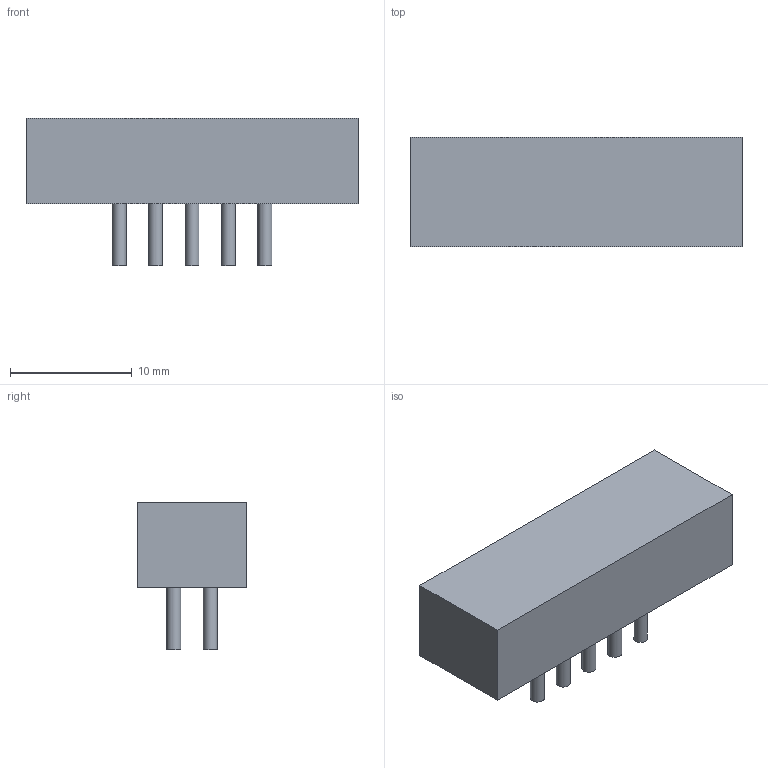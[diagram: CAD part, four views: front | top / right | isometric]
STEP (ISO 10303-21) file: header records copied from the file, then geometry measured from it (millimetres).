
FILE_DESCRIPTION(('FreeCAD Model'),'2;1');
FILE_NAME('/var/www/3D/0T/383076.1.4.stp','2020-04-08T17:02:58',( 'Author'),(''),'Open CASCADE STEP processor 6.9','FreeCAD','Unknown' );
FILE_SCHEMA(('AUTOMOTIVE_DESIGN { 1 0 10303 214 1 1 1 1 }'));
Length unit declared in the file: millimetre
Products named in the file (3): ASSEMBLY; Body; Leads
Assembly tree (11 placements, depth 2):
  ASSEMBLY
    Body
    Leads  x10
Bounding box: 27.3 x 9 x 12.15 mm (x, y, z)
Volume: 2261.9 mm3; surface area: 3053.5 mm2
Topology: 101 solids, 101 shells, 306 faces, 312 edges, 208 vertices
Faces by surface type: plane 206, cylinder 100
Full cylindrical faces by diameter (mm): 1.15 x100
Entity records: 1453 total; most frequent: DIRECTION 242, CARTESIAN_POINT 202, LINE 86, VECTOR 86, ORIENTED_EDGE 84, PCURVE 84, DEFINITIONAL_REPRESENTATION 84, AXIS2_PLACEMENT_3D 68
